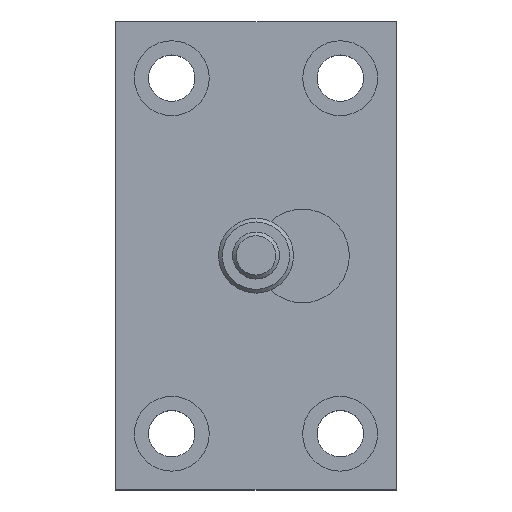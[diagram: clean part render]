
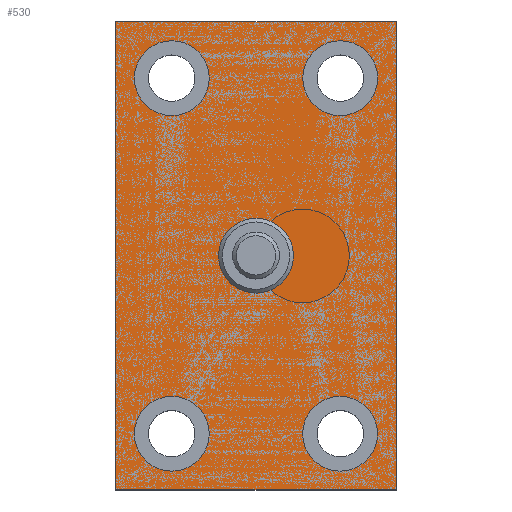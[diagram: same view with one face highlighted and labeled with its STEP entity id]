
A CAD part, top view. The second image highlights one B-rep face of the part: STEP entity #530.
In plain terms, the highlighted planar face has unit normal (0, 0, 1).
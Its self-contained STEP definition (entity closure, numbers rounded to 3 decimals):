
#530=ADVANCED_FACE('',(#577,#654,#655,#656,#657),#560,.T.);
#560=PLANE('',#1021);
#577=FACE_OUTER_BOUND('',#710,.T.);
#598=LINE('',#1243,#622);
#601=LINE('',#1249,#625);
#603=LINE('',#1253,#627);
#604=LINE('',#1264,#628);
#622=VECTOR('',#1086,1.);
#625=VECTOR('',#1091,1.);
#627=VECTOR('',#1095,1.);
#628=VECTOR('',#1110,1.);
#654=FACE_BOUND('',#711,.T.);
#655=FACE_BOUND('',#712,.T.);
#656=FACE_BOUND('',#713,.T.);
#657=FACE_BOUND('',#714,.T.);
#710=EDGE_LOOP('',(#797,#798,#799,#800));
#711=EDGE_LOOP('',(#801));
#712=EDGE_LOOP('',(#802));
#713=EDGE_LOOP('',(#803));
#714=EDGE_LOOP('',(#804));
#797=ORIENTED_EDGE('',*,*,#928,.T.);
#798=ORIENTED_EDGE('',*,*,#931,.T.);
#799=ORIENTED_EDGE('',*,*,#933,.T.);
#800=ORIENTED_EDGE('',*,*,#937,.T.);
#801=ORIENTED_EDGE('',*,*,#936,.F.);
#802=ORIENTED_EDGE('',*,*,#935,.F.);
#803=ORIENTED_EDGE('',*,*,#934,.F.);
#804=ORIENTED_EDGE('',*,*,#938,.F.);
#881=VERTEX_POINT('',#1242);
#882=VERTEX_POINT('',#1244);
#883=VERTEX_POINT('',#1248);
#884=VERTEX_POINT('',#1252);
#885=VERTEX_POINT('',#1256);
#886=VERTEX_POINT('',#1259);
#887=VERTEX_POINT('',#1262);
#888=VERTEX_POINT('',#1267);
#928=EDGE_CURVE('',#882,#881,#598,.T.);
#931=EDGE_CURVE('',#881,#883,#601,.T.);
#933=EDGE_CURVE('',#883,#884,#603,.T.);
#934=EDGE_CURVE('',#885,#885,#977,.T.);
#935=EDGE_CURVE('',#886,#886,#978,.T.);
#936=EDGE_CURVE('',#887,#887,#979,.T.);
#937=EDGE_CURVE('',#884,#882,#604,.T.);
#938=EDGE_CURVE('',#888,#888,#980,.T.);
#977=CIRCLE('',#1012,20.);
#978=CIRCLE('',#1014,20.);
#979=CIRCLE('',#1016,20.);
#980=CIRCLE('',#1019,20.);
#1012=AXIS2_PLACEMENT_3D('',#1255,#1098,#1099);
#1014=AXIS2_PLACEMENT_3D('',#1258,#1102,#1103);
#1016=AXIS2_PLACEMENT_3D('',#1261,#1106,#1107);
#1019=AXIS2_PLACEMENT_3D('',#1266,#1113,#1114);
#1021=AXIS2_PLACEMENT_3D('',#1269,#1117,#1118);
#1086=DIRECTION('',(0.,1.,0.));
#1091=DIRECTION('',(-1.,0.,0.));
#1095=DIRECTION('',(0.,-1.,0.));
#1098=DIRECTION('',(0.,0.,1.));
#1099=DIRECTION('',(1.,0.,0.));
#1102=DIRECTION('',(0.,0.,1.));
#1103=DIRECTION('',(1.,0.,0.));
#1106=DIRECTION('',(0.,0.,1.));
#1107=DIRECTION('',(1.,0.,0.));
#1110=DIRECTION('',(1.,0.,0.));
#1113=DIRECTION('',(0.,0.,1.));
#1114=DIRECTION('',(1.,0.,0.));
#1117=DIRECTION('',(0.,0.,1.));
#1118=DIRECTION('',(1.,0.,0.));
#1242=CARTESIAN_POINT('',(75.,125.,30.));
#1243=CARTESIAN_POINT('',(75.,-125.,30.));
#1244=CARTESIAN_POINT('',(75.,-125.,30.));
#1248=CARTESIAN_POINT('',(-75.,125.,30.));
#1249=CARTESIAN_POINT('',(75.,125.,30.));
#1252=CARTESIAN_POINT('',(-75.,-125.,30.));
#1253=CARTESIAN_POINT('',(-75.,125.,30.));
#1255=CARTESIAN_POINT('',(45.,95.,30.));
#1256=CARTESIAN_POINT('',(65.,95.,30.));
#1258=CARTESIAN_POINT('',(44.914,-95.,30.));
#1259=CARTESIAN_POINT('',(64.914,-95.,30.));
#1261=CARTESIAN_POINT('',(-45.,95.,30.));
#1262=CARTESIAN_POINT('',(-25.,95.,30.));
#1264=CARTESIAN_POINT('',(-75.,-125.,30.));
#1266=CARTESIAN_POINT('',(-45.,-95.,30.));
#1267=CARTESIAN_POINT('',(-25.,-95.,30.));
#1269=CARTESIAN_POINT('',(-45.,95.,30.));
